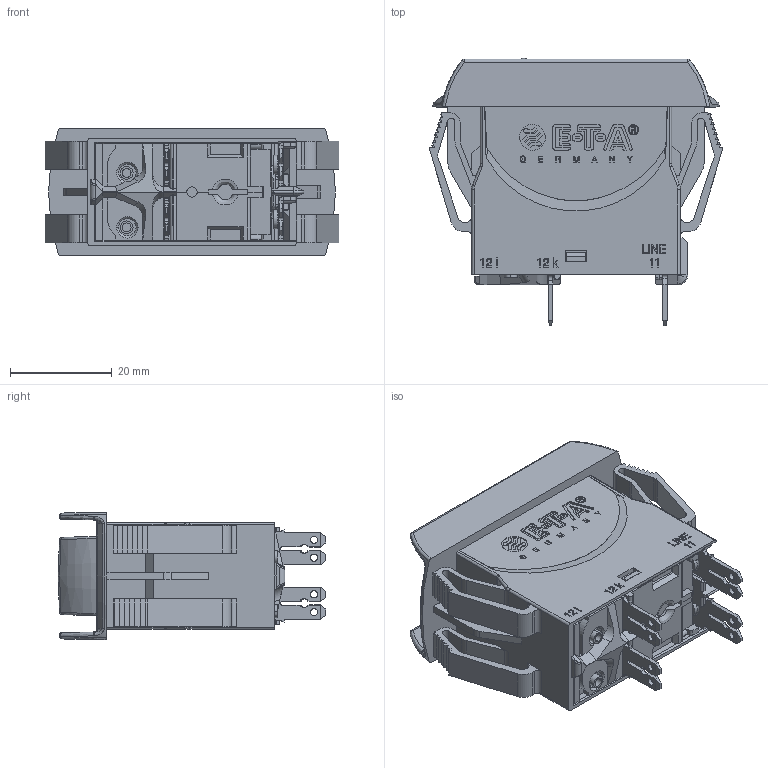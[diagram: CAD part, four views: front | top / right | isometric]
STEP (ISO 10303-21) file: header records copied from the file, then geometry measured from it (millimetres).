
FILE_DESCRIPTION((''),'2;1');
FILE_NAME('DUMMY-3120-N323-P7','2019-08-06T14:59:30',('wschmidt'),(''),'CREO PARAMETRIC BY PTC INC, 2017260','CREO PARAMETRIC BY PTC INC, 2017260','');
FILE_SCHEMA(('AUTOMOTIVE_DESIGN { 1 0 10303 214 1 1 1 1 }'));
Products named in the file (1): DUMMY-3120-N323-P7
Bounding box: 57.8 x 52.56 x 25.07 mm (x, y, z)
Volume: 31672.2 mm3; surface area: 20938.9 mm2
Topology: 1 solids, 2 shells, 1872 faces, 5123 edges, 3331 vertices
Faces by surface type: plane 1102, cylinder 307, extrusion 306, bspline 89, torus 43, cone 13, sphere 12
Entity records: 68484 total; most frequent: CARTESIAN_POINT 22423, ORIENTED_EDGE 10244, DIRECTION 7858, EDGE_CURVE 5122, VECTOR 3842, LINE 3536, VERTEX_POINT 3331, AXIS2_PLACEMENT_3D 2008
